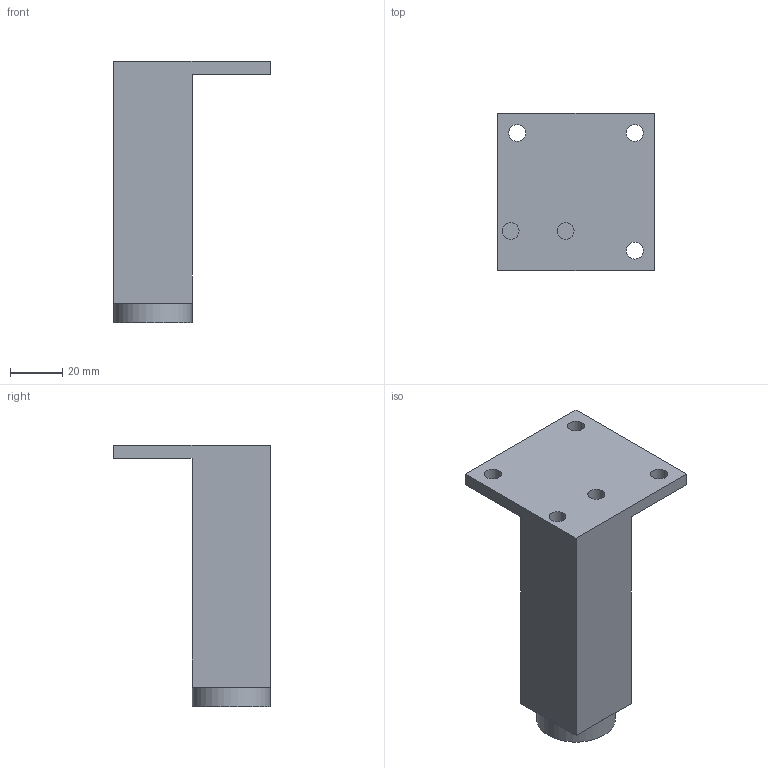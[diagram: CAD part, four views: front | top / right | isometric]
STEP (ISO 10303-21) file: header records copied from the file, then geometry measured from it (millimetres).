
FILE_DESCRIPTION( ( 'STEP AP214' ), '1' );
FILE_NAME( 'D:/Yug/2021/Desk_and_office_organisation/QC/9119446.stp', '2021-01-06T05:08:28', ( '' ), ( '' ), ' ', 'PARTsolutions', ' ' );
FILE_SCHEMA( ( 'AUTOMOTIVE_DESIGN { 1 0 10303 214 1 1 1 1 }' ) );
Length unit declared in the file: millimetre
Products named in the file (1): _9119446
Bounding box: 60 x 60 x 100 mm (x, y, z)
Volume: 101227 mm3; surface area: 19917.9 mm2
Topology: 1 solids, 1 shells, 21 faces, 46 edges, 29 vertices
Faces by surface type: plane 15, cylinder 6
Full cylindrical faces by diameter (mm): 6.48 x5, 30 x1
Entity records: 741 total; most frequent: DIRECTION 99, CARTESIAN_POINT 91, ORIENTED_EDGE 80, EDGE_CURVE 40, AXIS2_PLACEMENT_3D 37, EDGE_LOOP 35, VERTEX_POINT 29, FACE_OUTER_BOUND 27
